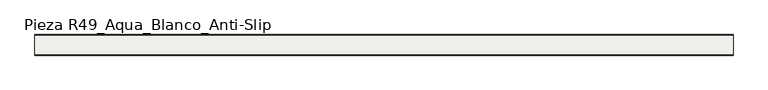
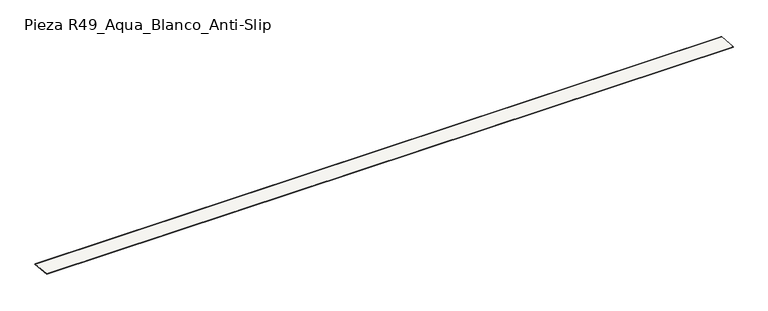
"""IFC4 building model written with IfcOpenShell, lengths in millimetres: slab geometry, ROSA GRES_R49 : Pieza R49_Aqua_Blanco_Anti-Slip."""

from ifc_helpers import new_model, si_unit, point, frame, frame_2d, origin, place, context, project, spatial, polyline, circle_curve, trimmed, segment, composite_curve, outline, extrude, source, transform, mapped, element, save


def pieza_r49_aqua_blanco_anti_slip_990b0548(model_context):
    return source(origin(), model_context, "Body", "SweptSolid", [
        extrude(outline(composite_curve([segment(polyline([(-70.1539646, 196.3880826), (-366.1749837, 220.4828167), (-365.5494776, 228.1676059)]), True, "CONTINUOUS"), segment(trimmed(circle_curve(frame_2d((-364.7862135, 226.9789488)), 1.4126139), [point((-365.5494776, 228.1676059))], [point((-364.6716123, 228.3869063))], False, "CARTESIAN"), True, "CONTINUOUS"), segment(polyline([(-364.6716123, 228.3869063), (-76.6234074, 204.9411222)]), True, "CONTINUOUS"), segment(trimmed(circle_curve(frame_2d((-77.8482549, 197.189121)), 7.8481701), [point((-76.6234074, 204.9411222))], [point((-70.0315861, 197.89159))], False, "CARTESIAN"), True, "CONTINUOUS"), segment(polyline([(-70.0315861, 197.89159), (-70.1539646, 196.3880826)]), True, "CONTINUOUS")], self_intersect=False)), frame((0.0, 0.0, 0.0), z_axis=(1.0, 0.0, 0.0), x_axis=(0.0, 1.0, 0.0)), (0.0, 0.0, 1.0), 10000.870022),
    ])


if __name__ == "__main__":
    model = new_model("IFC4")
    model_context = context("Model", 3, world=origin())
    ifc_project = project(units=[si_unit("LENGTHUNIT", "METRE", prefix="MILLI")], contexts=[model_context])
    site = spatial("IfcSite", under=ifc_project)
    building = spatial("IfcBuilding", under=site)
    placement = place(None, origin())
    pieza_r49_aqua_blanco_anti_slip_shape = pieza_r49_aqua_blanco_anti_slip_990b0548(model_context)
    element("IfcSlab", 1, ObjectType="ROSA GRES_R49 : Pieza R49_Aqua_Blanco_Anti-Slip", at=placement, inside=building, context=model_context, shape_type="MappedRepresentation", body=[
        mapped(pieza_r49_aqua_blanco_anti_slip_shape, transform((0.0, 0.0, 0.0), x_axis=(1.0, 0.0, 0.0), y_axis=(0.0, 1.0, 0.0), z_axis=(0.0, 0.0, 1.0))),
    ])
    save(model, "model.ifc")
